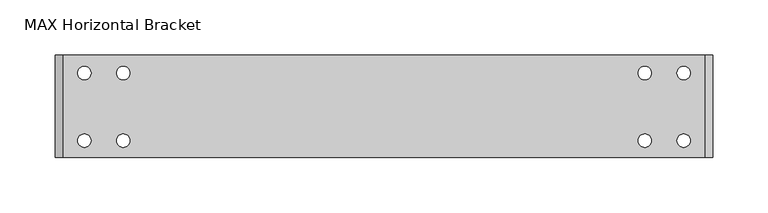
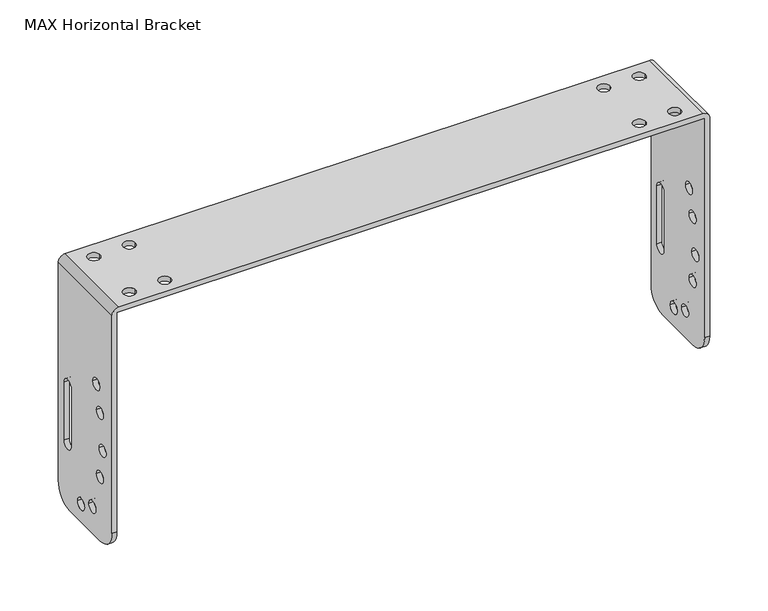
"""IFC4 building model written with IfcOpenShell, lengths in millimetres: proxy geometry, d&b M-Series MAX Horizontal Bracket : MAX Horizontal Bracket."""

from ifc_helpers import new_model, si_unit, frame, origin, place, context, project, spatial, polyline, circle_curve, source, transform, mapped, element, save
from ifc_brep_helpers import plane_surface, cylinder_surface, revolved_surface, advanced_brep


def max_horizontal_bracket_2c0e1940(model_context):
    return source(origin(), model_context, "Body", "AdvancedBrep", [
        advanced_brep(
        [(-365.1633527, 38.9610059, 231.2224562), (-365.1633527, 38.9610059, 1.2224562), (-370.1633527, 38.9610059, 1.2224562), (-370.1633527, 38.9610059, 229.2224562), (-363.1633527, 38.9610059, 236.2224562), (214.8366473, 38.9610059, 236.2224562), (221.8366473, 38.9610059, 229.2224562), (221.8366473, 38.9610059, 1.2224562), (216.8366473, 38.9610059, 1.2224562), (216.8366473, 38.9610059, 231.2224562), (-370.1633527, -53.0389941, 229.2224562), (-370.1633527, -53.0389941, 1.2224562), (-365.1633527, -53.0389941, 1.2224562), (-365.1633527, -53.0389941, 231.2224562), (216.8366473, -53.0389941, 231.2224562), (216.8366473, -53.0389941, 1.2224562), (221.8366473, -53.0389941, 1.2224562), (221.8366473, -53.0389941, 229.2224562), (214.8366473, -53.0389941, 236.2224562), (-363.1633527, -53.0389941, 236.2224562), (-370.1633527, 18.9610059, -18.7775438), (-365.1633527, 18.9610059, -18.7775438), (-365.1633527, -33.0389941, -18.7775438), (-370.1633527, -33.0389941, -18.7775438), (-365.1633527, -20.1881167, 141.6370424), (-365.1633527, -32.1881167, 141.6370424), (-365.1633527, -26.471766, 115.1668943), (-365.1633527, -38.471766, 115.1668943), (-365.1633527, -31.0389941, 78.1106339), (-365.1633527, -43.0389941, 78.1106339), (-365.1633527, -26.471766, 48.0141991), (-365.1633527, -38.471766, 48.0141991), (-365.1633527, -13.4654009, 9.0563936), (-365.1633527, -25.4654009, 9.0563936), (-365.1633527, 6.0, 0.0), (-365.1633527, -6.0, 0.0), (-365.1633527, 16.9610059, 49.4828004), (-365.1633527, 16.9610059, 110.5224562), (-365.1633527, 28.9610059, 110.5224562), (-365.1633527, 28.9610059, 49.4828004), (-338.1633527, -38.0389941, 231.2224562), (-350.1633527, -38.0389941, 231.2224562), (-338.1633527, 22.9610059, 231.2224562), (-350.1633527, 22.9610059, 231.2224562), (201.8366473, -38.0389941, 231.2224562), (189.8366473, -38.0389941, 231.2224562), (201.8366473, 22.9610059, 231.2224562), (189.8366473, 22.9610059, 231.2224562), (-303.1633527, -38.0389941, 231.2224562), (-315.1633527, -38.0389941, 231.2224562), (-303.1633527, 22.9610059, 231.2224562), (-315.1633527, 22.9610059, 231.2224562), (154.8366473, -38.0389941, 231.2224562), (166.8366473, -38.0389941, 231.2224562), (154.8366473, 22.9610059, 231.2224562), (166.8366473, 22.9610059, 231.2224562), (216.8366473, 18.9610059, -18.7775438), (216.8366473, -33.0389941, -18.7775438), (216.8366473, -32.1881167, 141.6370424), (216.8366473, -20.1881167, 141.6370424), (216.8366473, -38.471766, 115.1668943), (216.8366473, -26.471766, 115.1668943), (216.8366473, -43.0389941, 78.1106339), (216.8366473, -31.0389941, 78.1106339), (216.8366473, -38.471766, 48.0141991), (216.8366473, -26.471766, 48.0141991), (216.8366473, -25.4654009, 9.0563936), (216.8366473, -13.4654009, 9.0563936), (216.8366473, -6.0, 0.0), (216.8366473, 6.0, 0.0), (216.8366473, 28.9610059, 49.4828004), (216.8366473, 28.9610059, 110.5224562), (216.8366473, 16.9610059, 110.5224562), (216.8366473, 16.9610059, 49.4828004), (221.8366473, 18.9610059, -18.7775438), (221.8366473, -33.0389941, -18.7775438), (221.8366473, -20.1881167, 141.6370424), (221.8366473, -32.1881167, 141.6370424), (221.8366473, -26.471766, 115.1668943), (221.8366473, -38.471766, 115.1668943), (221.8366473, -31.0389941, 78.1106339), (221.8366473, -43.0389941, 78.1106339), (221.8366473, -26.471766, 48.0141991), (221.8366473, -38.471766, 48.0141991), (221.8366473, -13.4654009, 9.0563936), (221.8366473, -25.4654009, 9.0563936), (221.8366473, 6.0, 0.0), (221.8366473, -6.0, 0.0), (221.8366473, 16.9610059, 49.4828004), (221.8366473, 16.9610059, 110.5224562), (221.8366473, 28.9610059, 110.5224562), (221.8366473, 28.9610059, 49.4828004), (-350.1633527, -38.0389941, 236.2224562), (-338.1633527, -38.0389941, 236.2224562), (-350.1633527, 22.9610059, 236.2224562), (-338.1633527, 22.9610059, 236.2224562), (189.8366473, -38.0389941, 236.2224562), (201.8366473, -38.0389941, 236.2224562), (189.8366473, 22.9610059, 236.2224562), (201.8366473, 22.9610059, 236.2224562), (-315.1633527, -38.0389941, 236.2224562), (-303.1633527, -38.0389941, 236.2224562), (-315.1633527, 22.9610059, 236.2224562), (-303.1633527, 22.9610059, 236.2224562), (166.8366473, -38.0389941, 236.2224562), (154.8366473, -38.0389941, 236.2224562), (166.8366473, 22.9610059, 236.2224562), (154.8366473, 22.9610059, 236.2224562), (-370.1633527, -32.1881167, 141.6370424), (-370.1633527, -20.1881167, 141.6370424), (-370.1633527, -38.471766, 115.1668943), (-370.1633527, -26.471766, 115.1668943), (-370.1633527, -43.0389941, 78.1106339), (-370.1633527, -31.0389941, 78.1106339), (-370.1633527, -38.471766, 48.0141991), (-370.1633527, -26.471766, 48.0141991), (-370.1633527, -25.4654009, 9.0563936), (-370.1633527, -13.4654009, 9.0563936), (-370.1633527, -6.0, 0.0), (-370.1633527, 6.0, 0.0), (-370.1633527, 28.9610059, 49.4828004), (-370.1633527, 28.9610059, 110.5224562), (-370.1633527, 16.9610059, 110.5224562), (-370.1633527, 16.9610059, 49.4828004)],
        [
            (0, 1),
            (1, 2),
            (2, 3),
            (3, 4, circle_curve(frame((-363.1633527, 38.9610059, 229.2224562), z_axis=(0.0, 1.0, 0.0), x_axis=(1.0, 0.0, 0.0)), 7.0)),
            (4, 5),
            (5, 6, circle_curve(frame((214.8366473, 38.9610059, 229.2224562), z_axis=(0.0, 1.0, 0.0), x_axis=(1.0, 0.0, 0.0)), 7.0)),
            (6, 7),
            (7, 8),
            (8, 9),
            (9, 0),
            (10, 11),
            (11, 12),
            (12, 13),
            (13, 14),
            (14, 15),
            (15, 16),
            (16, 17),
            (17, 18, circle_curve(frame((214.8366473, -53.0389941, 229.2224562), z_axis=(0.0, -1.0, 0.0), x_axis=(1.0, 0.0, 0.0)), 7.0)),
            (18, 19),
            (19, 10, circle_curve(frame((-363.1633527, -53.0389941, 229.2224562), z_axis=(0.0, -1.0, 0.0), x_axis=(1.0, 0.0, 0.0)), 7.0)),
            (20, 21),
            (21, 22),
            (22, 23),
            (23, 20),
            (12, 22, circle_curve(frame((-365.1633527, -33.0389941, 1.2224562), z_axis=(1.0, 0.0, 0.0), x_axis=(0.0, 0.0, -1.0)), 20.0)),
            (21, 1, circle_curve(frame((-365.1633527, 18.9610059, 1.2224562), z_axis=(1.0, 0.0, 0.0), x_axis=(0.0, 0.0, -1.0)), 20.0)),
            (0, 13),
            (24, 25, circle_curve(frame((-365.1633527, -26.1881167, 141.6370424), z_axis=(-1.0, 0.0, 0.0), x_axis=(0.0, 1.0, 0.0)), 6.0)),
            (25, 24, circle_curve(frame((-365.1633527, -26.1881167, 141.6370424), z_axis=(-1.0, 0.0, 0.0), x_axis=(0.0, 1.0, 0.0)), 6.0)),
            (26, 27, circle_curve(frame((-365.1633527, -32.471766, 115.1668943), z_axis=(-1.0, 0.0, 0.0), x_axis=(0.0, 1.0, 0.0)), 6.0)),
            (27, 26, circle_curve(frame((-365.1633527, -32.471766, 115.1668943), z_axis=(-1.0, 0.0, 0.0), x_axis=(0.0, 1.0, 0.0)), 6.0)),
            (28, 29, circle_curve(frame((-365.1633527, -37.0389941, 78.1106339), z_axis=(-1.0, 0.0, 0.0), x_axis=(0.0, 1.0, 0.0)), 6.0)),
            (29, 28, circle_curve(frame((-365.1633527, -37.0389941, 78.1106339), z_axis=(-1.0, 0.0, 0.0), x_axis=(0.0, 1.0, 0.0)), 6.0)),
            (30, 31, circle_curve(frame((-365.1633527, -32.471766, 48.0141991), z_axis=(-1.0, 0.0, 0.0), x_axis=(0.0, 1.0, 0.0)), 6.0)),
            (31, 30, circle_curve(frame((-365.1633527, -32.471766, 48.0141991), z_axis=(-1.0, 0.0, 0.0), x_axis=(0.0, 1.0, 0.0)), 6.0)),
            (32, 33, circle_curve(frame((-365.1633527, -19.4654009, 9.0563936), z_axis=(-1.0, 0.0, 0.0), x_axis=(0.0, 1.0, 0.0)), 6.0)),
            (33, 32, circle_curve(frame((-365.1633527, -19.4654009, 9.0563936), z_axis=(-1.0, 0.0, 0.0), x_axis=(0.0, 1.0, 0.0)), 6.0)),
            (34, 35, circle_curve(frame((-365.1633527, 0.0, 0.0), z_axis=(-1.0, 0.0, 0.0), x_axis=(0.0, 1.0, 0.0)), 6.0)),
            (35, 34, circle_curve(frame((-365.1633527, 0.0, 0.0), z_axis=(-1.0, 0.0, 0.0), x_axis=(0.0, 1.0, 0.0)), 6.0)),
            (36, 37),
            (37, 38, circle_curve(frame((-365.1633527, 22.9610059, 110.5224562), z_axis=(-1.0, 0.0, 0.0), x_axis=(0.0, 1.0, 0.0)), 6.0)),
            (38, 39),
            (39, 36, circle_curve(frame((-365.1633527, 22.9610059, 49.4828004), z_axis=(-1.0, 0.0, 0.0), x_axis=(0.0, -1.0, 0.0)), 6.0)),
            (9, 14),
            (40, 41, circle_curve(frame((-344.1633527, -38.0389941, 231.2224562), z_axis=(0.0, 0.0, 1.0), x_axis=(-1.0, 0.0, 0.0)), 6.0)),
            (41, 40, circle_curve(frame((-344.1633527, -38.0389941, 231.2224562), z_axis=(0.0, 0.0, 1.0), x_axis=(-1.0, 0.0, 0.0)), 6.0)),
            (42, 43, circle_curve(frame((-344.1633527, 22.9610059, 231.2224562), z_axis=(0.0, 0.0, 1.0), x_axis=(-1.0, 0.0, 0.0)), 6.0)),
            (43, 42, circle_curve(frame((-344.1633527, 22.9610059, 231.2224562), z_axis=(0.0, 0.0, 1.0), x_axis=(-1.0, 0.0, 0.0)), 6.0)),
            (44, 45, circle_curve(frame((195.8366473, -38.0389941, 231.2224562), z_axis=(0.0, 0.0, 1.0), x_axis=(-1.0, 0.0, 0.0)), 6.0)),
            (45, 44, circle_curve(frame((195.8366473, -38.0389941, 231.2224562), z_axis=(0.0, 0.0, 1.0), x_axis=(-1.0, 0.0, 0.0)), 6.0)),
            (46, 47, circle_curve(frame((195.8366473, 22.9610059, 231.2224562), z_axis=(0.0, 0.0, 1.0), x_axis=(-1.0, 0.0, 0.0)), 6.0)),
            (47, 46, circle_curve(frame((195.8366473, 22.9610059, 231.2224562), z_axis=(0.0, 0.0, 1.0), x_axis=(-1.0, 0.0, 0.0)), 6.0)),
            (48, 49, circle_curve(frame((-309.1633527, -38.0389941, 231.2224562), z_axis=(0.0, 0.0, 1.0), x_axis=(-1.0, 0.0, 0.0)), 6.0)),
            (49, 48, circle_curve(frame((-309.1633527, -38.0389941, 231.2224562), z_axis=(0.0, 0.0, 1.0), x_axis=(-1.0, 0.0, 0.0)), 6.0)),
            (50, 51, circle_curve(frame((-309.1633527, 22.9610059, 231.2224562), z_axis=(0.0, 0.0, 1.0), x_axis=(-1.0, 0.0, 0.0)), 6.0)),
            (51, 50, circle_curve(frame((-309.1633527, 22.9610059, 231.2224562), z_axis=(0.0, 0.0, 1.0), x_axis=(-1.0, 0.0, 0.0)), 6.0)),
            (52, 53, circle_curve(frame((160.8366473, -38.0389941, 231.2224562), z_axis=(0.0, 0.0, 1.0), x_axis=(1.0, 0.0, 0.0)), 6.0)),
            (53, 52, circle_curve(frame((160.8366473, -38.0389941, 231.2224562), z_axis=(0.0, 0.0, 1.0), x_axis=(1.0, 0.0, 0.0)), 6.0)),
            (54, 55, circle_curve(frame((160.8366473, 22.9610059, 231.2224562), z_axis=(0.0, 0.0, 1.0), x_axis=(1.0, 0.0, 0.0)), 6.0)),
            (55, 54, circle_curve(frame((160.8366473, 22.9610059, 231.2224562), z_axis=(0.0, 0.0, 1.0), x_axis=(1.0, 0.0, 0.0)), 6.0)),
            (8, 56, circle_curve(frame((216.8366473, 18.9610059, 1.2224562), z_axis=(-1.0, 0.0, 0.0), x_axis=(0.0, 0.0, -1.0)), 20.0)),
            (56, 57),
            (57, 15, circle_curve(frame((216.8366473, -33.0389941, 1.2224562), z_axis=(-1.0, 0.0, 0.0), x_axis=(0.0, 0.0, -1.0)), 20.0)),
            (58, 59, circle_curve(frame((216.8366473, -26.1881167, 141.6370424), z_axis=(1.0, 0.0, 0.0), x_axis=(0.0, 1.0, 0.0)), 6.0)),
            (59, 58, circle_curve(frame((216.8366473, -26.1881167, 141.6370424), z_axis=(1.0, 0.0, 0.0), x_axis=(0.0, 1.0, 0.0)), 6.0)),
            (60, 61, circle_curve(frame((216.8366473, -32.471766, 115.1668943), z_axis=(1.0, 0.0, 0.0), x_axis=(0.0, 1.0, 0.0)), 6.0)),
            (61, 60, circle_curve(frame((216.8366473, -32.471766, 115.1668943), z_axis=(1.0, 0.0, 0.0), x_axis=(0.0, 1.0, 0.0)), 6.0)),
            (62, 63, circle_curve(frame((216.8366473, -37.0389941, 78.1106339), z_axis=(1.0, 0.0, 0.0), x_axis=(0.0, 1.0, 0.0)), 6.0)),
            (63, 62, circle_curve(frame((216.8366473, -37.0389941, 78.1106339), z_axis=(1.0, 0.0, 0.0), x_axis=(0.0, 1.0, 0.0)), 6.0)),
            (64, 65, circle_curve(frame((216.8366473, -32.471766, 48.0141991), z_axis=(1.0, 0.0, 0.0), x_axis=(0.0, 1.0, 0.0)), 6.0)),
            (65, 64, circle_curve(frame((216.8366473, -32.471766, 48.0141991), z_axis=(1.0, 0.0, 0.0), x_axis=(0.0, 1.0, 0.0)), 6.0)),
            (66, 67, circle_curve(frame((216.8366473, -19.4654009, 9.0563936), z_axis=(1.0, 0.0, 0.0), x_axis=(0.0, 1.0, 0.0)), 6.0)),
            (67, 66, circle_curve(frame((216.8366473, -19.4654009, 9.0563936), z_axis=(1.0, 0.0, 0.0), x_axis=(0.0, 1.0, 0.0)), 6.0)),
            (68, 69, circle_curve(frame((216.8366473, 0.0, 0.0), z_axis=(1.0, 0.0, 0.0), x_axis=(0.0, 1.0, 0.0)), 6.0)),
            (69, 68, circle_curve(frame((216.8366473, 0.0, 0.0), z_axis=(1.0, 0.0, 0.0), x_axis=(0.0, 1.0, 0.0)), 6.0)),
            (70, 71),
            (71, 72, circle_curve(frame((216.8366473, 22.9610059, 110.5224562), z_axis=(1.0, 0.0, 0.0), x_axis=(0.0, 1.0, 0.0)), 6.0)),
            (72, 73),
            (73, 70, circle_curve(frame((216.8366473, 22.9610059, 49.4828004), z_axis=(1.0, 0.0, 0.0), x_axis=(0.0, -1.0, 0.0)), 6.0)),
            (56, 74),
            (74, 75),
            (75, 57),
            (16, 75, circle_curve(frame((221.8366473, -33.0389941, 1.2224562), z_axis=(1.0, 0.0, 0.0), x_axis=(0.0, 0.0, -1.0)), 20.0)),
            (74, 7, circle_curve(frame((221.8366473, 18.9610059, 1.2224562), z_axis=(1.0, 0.0, 0.0), x_axis=(0.0, 0.0, -1.0)), 20.0)),
            (6, 17),
            (76, 77, circle_curve(frame((221.8366473, -26.1881167, 141.6370424), z_axis=(-1.0, 0.0, 0.0), x_axis=(0.0, 1.0, 0.0)), 6.0)),
            (77, 76, circle_curve(frame((221.8366473, -26.1881167, 141.6370424), z_axis=(-1.0, 0.0, 0.0), x_axis=(0.0, 1.0, 0.0)), 6.0)),
            (78, 79, circle_curve(frame((221.8366473, -32.471766, 115.1668943), z_axis=(-1.0, 0.0, 0.0), x_axis=(0.0, 1.0, 0.0)), 6.0)),
            (79, 78, circle_curve(frame((221.8366473, -32.471766, 115.1668943), z_axis=(-1.0, 0.0, 0.0), x_axis=(0.0, 1.0, 0.0)), 6.0)),
            (80, 81, circle_curve(frame((221.8366473, -37.0389941, 78.1106339), z_axis=(-1.0, 0.0, 0.0), x_axis=(0.0, 1.0, 0.0)), 6.0)),
            (81, 80, circle_curve(frame((221.8366473, -37.0389941, 78.1106339), z_axis=(-1.0, 0.0, 0.0), x_axis=(0.0, 1.0, 0.0)), 6.0)),
            (82, 83, circle_curve(frame((221.8366473, -32.471766, 48.0141991), z_axis=(-1.0, 0.0, 0.0), x_axis=(0.0, 1.0, 0.0)), 6.0)),
            (83, 82, circle_curve(frame((221.8366473, -32.471766, 48.0141991), z_axis=(-1.0, 0.0, 0.0), x_axis=(0.0, 1.0, 0.0)), 6.0)),
            (84, 85, circle_curve(frame((221.8366473, -19.4654009, 9.0563936), z_axis=(-1.0, 0.0, 0.0), x_axis=(0.0, 1.0, 0.0)), 6.0)),
            (85, 84, circle_curve(frame((221.8366473, -19.4654009, 9.0563936), z_axis=(-1.0, 0.0, 0.0), x_axis=(0.0, 1.0, 0.0)), 6.0)),
            (86, 87, circle_curve(frame((221.8366473, 0.0, 0.0), z_axis=(-1.0, 0.0, 0.0), x_axis=(0.0, 1.0, 0.0)), 6.0)),
            (87, 86, circle_curve(frame((221.8366473, 0.0, 0.0), z_axis=(-1.0, 0.0, 0.0), x_axis=(0.0, 1.0, 0.0)), 6.0)),
            (88, 89),
            (89, 90, circle_curve(frame((221.8366473, 22.9610059, 110.5224562), z_axis=(-1.0, 0.0, 0.0), x_axis=(0.0, 1.0, 0.0)), 6.0)),
            (90, 91),
            (91, 88, circle_curve(frame((221.8366473, 22.9610059, 49.4828004), z_axis=(-1.0, 0.0, 0.0), x_axis=(0.0, -1.0, 0.0)), 6.0)),
            (4, 19),
            (18, 5),
            (92, 93, circle_curve(frame((-344.1633527, -38.0389941, 236.2224562), z_axis=(0.0, 0.0, -1.0), x_axis=(-1.0, 0.0, 0.0)), 6.0)),
            (93, 92, circle_curve(frame((-344.1633527, -38.0389941, 236.2224562), z_axis=(0.0, 0.0, -1.0), x_axis=(-1.0, 0.0, 0.0)), 6.0)),
            (94, 95, circle_curve(frame((-344.1633527, 22.9610059, 236.2224562), z_axis=(0.0, 0.0, -1.0), x_axis=(-1.0, 0.0, 0.0)), 6.0)),
            (95, 94, circle_curve(frame((-344.1633527, 22.9610059, 236.2224562), z_axis=(0.0, 0.0, -1.0), x_axis=(-1.0, 0.0, 0.0)), 6.0)),
            (96, 97, circle_curve(frame((195.8366473, -38.0389941, 236.2224562), z_axis=(0.0, 0.0, -1.0), x_axis=(-1.0, 0.0, 0.0)), 6.0)),
            (97, 96, circle_curve(frame((195.8366473, -38.0389941, 236.2224562), z_axis=(0.0, 0.0, -1.0), x_axis=(-1.0, 0.0, 0.0)), 6.0)),
            (98, 99, circle_curve(frame((195.8366473, 22.9610059, 236.2224562), z_axis=(0.0, 0.0, -1.0), x_axis=(-1.0, 0.0, 0.0)), 6.0)),
            (99, 98, circle_curve(frame((195.8366473, 22.9610059, 236.2224562), z_axis=(0.0, 0.0, -1.0), x_axis=(-1.0, 0.0, 0.0)), 6.0)),
            (100, 101, circle_curve(frame((-309.1633527, -38.0389941, 236.2224562), z_axis=(0.0, 0.0, -1.0), x_axis=(-1.0, 0.0, 0.0)), 6.0)),
            (101, 100, circle_curve(frame((-309.1633527, -38.0389941, 236.2224562), z_axis=(0.0, 0.0, -1.0), x_axis=(-1.0, 0.0, 0.0)), 6.0)),
            (102, 103, circle_curve(frame((-309.1633527, 22.9610059, 236.2224562), z_axis=(0.0, 0.0, -1.0), x_axis=(-1.0, 0.0, 0.0)), 6.0)),
            (103, 102, circle_curve(frame((-309.1633527, 22.9610059, 236.2224562), z_axis=(0.0, 0.0, -1.0), x_axis=(-1.0, 0.0, 0.0)), 6.0)),
            (104, 105, circle_curve(frame((160.8366473, -38.0389941, 236.2224562), z_axis=(0.0, 0.0, -1.0), x_axis=(1.0, 0.0, 0.0)), 6.0)),
            (105, 104, circle_curve(frame((160.8366473, -38.0389941, 236.2224562), z_axis=(0.0, 0.0, -1.0), x_axis=(1.0, 0.0, 0.0)), 6.0)),
            (106, 107, circle_curve(frame((160.8366473, 22.9610059, 236.2224562), z_axis=(0.0, 0.0, -1.0), x_axis=(1.0, 0.0, 0.0)), 6.0)),
            (107, 106, circle_curve(frame((160.8366473, 22.9610059, 236.2224562), z_axis=(0.0, 0.0, -1.0), x_axis=(1.0, 0.0, 0.0)), 6.0)),
            (2, 20, circle_curve(frame((-370.1633527, 18.9610059, 1.2224562), z_axis=(-1.0, 0.0, 0.0), x_axis=(0.0, 0.0, -1.0)), 20.0)),
            (23, 11, circle_curve(frame((-370.1633527, -33.0389941, 1.2224562), z_axis=(-1.0, 0.0, 0.0), x_axis=(0.0, 0.0, -1.0)), 20.0)),
            (10, 3),
            (108, 109, circle_curve(frame((-370.1633527, -26.1881167, 141.6370424), z_axis=(1.0, 0.0, 0.0), x_axis=(0.0, 1.0, 0.0)), 6.0)),
            (109, 108, circle_curve(frame((-370.1633527, -26.1881167, 141.6370424), z_axis=(1.0, 0.0, 0.0), x_axis=(0.0, 1.0, 0.0)), 6.0)),
            (110, 111, circle_curve(frame((-370.1633527, -32.471766, 115.1668943), z_axis=(1.0, 0.0, 0.0), x_axis=(0.0, 1.0, 0.0)), 6.0)),
            (111, 110, circle_curve(frame((-370.1633527, -32.471766, 115.1668943), z_axis=(1.0, 0.0, 0.0), x_axis=(0.0, 1.0, 0.0)), 6.0)),
            (112, 113, circle_curve(frame((-370.1633527, -37.0389941, 78.1106339), z_axis=(1.0, 0.0, 0.0), x_axis=(0.0, 1.0, 0.0)), 6.0)),
            (113, 112, circle_curve(frame((-370.1633527, -37.0389941, 78.1106339), z_axis=(1.0, 0.0, 0.0), x_axis=(0.0, 1.0, 0.0)), 6.0)),
            (114, 115, circle_curve(frame((-370.1633527, -32.471766, 48.0141991), z_axis=(1.0, 0.0, 0.0), x_axis=(0.0, 1.0, 0.0)), 6.0)),
            (115, 114, circle_curve(frame((-370.1633527, -32.471766, 48.0141991), z_axis=(1.0, 0.0, 0.0), x_axis=(0.0, 1.0, 0.0)), 6.0)),
            (116, 117, circle_curve(frame((-370.1633527, -19.4654009, 9.0563936), z_axis=(1.0, 0.0, 0.0), x_axis=(0.0, 1.0, 0.0)), 6.0)),
            (117, 116, circle_curve(frame((-370.1633527, -19.4654009, 9.0563936), z_axis=(1.0, 0.0, 0.0), x_axis=(0.0, 1.0, 0.0)), 6.0)),
            (118, 119, circle_curve(frame((-370.1633527, 0.0, 0.0), z_axis=(1.0, 0.0, 0.0), x_axis=(0.0, 1.0, 0.0)), 6.0)),
            (119, 118, circle_curve(frame((-370.1633527, 0.0, 0.0), z_axis=(1.0, 0.0, 0.0), x_axis=(0.0, 1.0, 0.0)), 6.0)),
            (120, 121),
            (121, 122, circle_curve(frame((-370.1633527, 22.9610059, 110.5224562), z_axis=(1.0, 0.0, 0.0), x_axis=(0.0, 1.0, 0.0)), 6.0)),
            (122, 123),
            (123, 120, circle_curve(frame((-370.1633527, 22.9610059, 49.4828004), z_axis=(1.0, 0.0, 0.0), x_axis=(0.0, -1.0, 0.0)), 6.0)),
            (59, 76),
            (77, 58),
            (109, 24),
            (25, 108),
            (61, 78),
            (79, 60),
            (111, 26),
            (27, 110),
            (63, 80),
            (81, 62),
            (113, 28),
            (29, 112),
            (65, 82),
            (83, 64),
            (115, 30),
            (31, 114),
            (67, 84),
            (85, 66),
            (117, 32),
            (33, 116),
            (69, 86),
            (87, 68),
            (119, 34),
            (35, 118),
            (73, 88),
            (91, 70),
            (123, 36),
            (39, 120),
            (72, 89),
            (122, 37),
            (71, 90),
            (121, 38),
            (41, 92),
            (93, 40),
            (43, 94),
            (95, 42),
            (45, 96),
            (97, 44),
            (47, 98),
            (99, 46),
            (49, 100),
            (101, 48),
            (51, 102),
            (103, 50),
            (53, 104),
            (105, 52),
            (55, 106),
            (107, 54),
        ],
        [
            plane_surface(frame((-371.1633527, 38.9610059, -18.7775438), z_axis=(0.0, 1.0, 0.0), x_axis=(1.0, 0.0, 0.0))),
            plane_surface(frame((-371.1633527, -53.0389941, -18.7775438), z_axis=(0.0, -1.0, 0.0), x_axis=(-1.0, 0.0, 0.0))),
            plane_surface(frame((-370.1633527, 38.9610059, -18.7775438), z_axis=(0.0, 0.0, -1.0), x_axis=(0.0, -1.0, 0.0))),
            plane_surface(frame((-365.1633527, 38.9610059, -18.7775438), z_axis=(1.0, 0.0, 0.0), x_axis=(0.0, -1.0, 0.0))),
            plane_surface(frame((-365.1633527, 38.9610059, 231.2224562), z_axis=(0.0, 0.0, -1.0), x_axis=(0.0, -1.0, 0.0))),
            plane_surface(frame((216.8366473, 38.9610059, 231.2224562), z_axis=(-1.0, 0.0, 0.0), x_axis=(0.0, -1.0, 0.0))),
            plane_surface(frame((216.8366473, 38.9610059, -18.7775438), z_axis=(0.0, 0.0, -1.0), x_axis=(0.0, -1.0, 0.0))),
            plane_surface(frame((221.8366473, 38.9610059, -18.7775438), z_axis=(1.0, 0.0, 0.0), x_axis=(0.0, -1.0, 0.0))),
            plane_surface(frame((214.8366473, 38.9610059, 236.2224562), z_axis=(0.0, 0.0, 1.0), x_axis=(0.0, -1.0, 0.0))),
            plane_surface(frame((-370.1633527, 38.9610059, 229.2224562), z_axis=(-1.0, 0.0, 0.0), x_axis=(0.0, -1.0, 0.0))),
            cylinder_surface(frame((-474.1633527, 18.9610059, 1.2224562), z_axis=(-1.0, 0.0, 0.0), x_axis=(0.0, 0.0, -1.0)), 20.0),
            cylinder_surface(frame((-74.1633527, -33.0389941, 1.2224562), z_axis=(-1.0, 0.0, 0.0), x_axis=(0.0, 0.0, -1.0)), 20.0),
            revolved_surface(polyline([(221.83664729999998, -20.1881167, 141.6370424), (216.83664729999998, -20.1881167, 141.6370424)]), (-474.1633527, -26.1881167, 141.6370424), (1.0, 0.0, 0.0)),
            revolved_surface(polyline([(-365.1633527, -20.1881167, 141.6370424), (-370.1633527, -20.1881167, 141.6370424)]), (-474.1633527, -26.1881167, 141.6370424), (1.0, 0.0, 0.0)),
            revolved_surface(polyline([(221.83664729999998, -26.471766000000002, 115.1668943), (216.83664729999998, -26.471766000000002, 115.1668943)]), (-74.1633527, -32.471766, 115.1668943), (1.0, 0.0, 0.0)),
            revolved_surface(polyline([(-365.1633527, -26.471766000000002, 115.1668943), (-370.1633527, -26.471766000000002, 115.1668943)]), (-74.1633527, -32.471766, 115.1668943), (1.0, 0.0, 0.0)),
            revolved_surface(polyline([(221.83664729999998, -31.038994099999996, 78.1106339), (216.83664729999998, -31.038994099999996, 78.1106339)]), (-74.1633527, -37.0389941, 78.1106339), (1.0, 0.0, 0.0)),
            revolved_surface(polyline([(-365.1633527, -31.038994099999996, 78.1106339), (-370.1633527, -31.038994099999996, 78.1106339)]), (-74.1633527, -37.0389941, 78.1106339), (1.0, 0.0, 0.0)),
            revolved_surface(polyline([(221.83664729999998, -26.471766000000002, 48.0141991), (216.83664729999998, -26.471766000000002, 48.0141991)]), (-74.1633527, -32.471766, 48.0141991), (1.0, 0.0, 0.0)),
            revolved_surface(polyline([(-365.1633527, -26.471766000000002, 48.0141991), (-370.1633527, -26.471766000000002, 48.0141991)]), (-74.1633527, -32.471766, 48.0141991), (1.0, 0.0, 0.0)),
            revolved_surface(polyline([(221.83664729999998, -13.465400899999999, 9.0563936), (216.83664729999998, -13.465400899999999, 9.0563936)]), (-74.1633527, -19.4654009, 9.0563936), (1.0, 0.0, 0.0)),
            revolved_surface(polyline([(-365.1633527, -13.465400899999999, 9.0563936), (-370.1633527, -13.465400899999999, 9.0563936)]), (-74.1633527, -19.4654009, 9.0563936), (1.0, 0.0, 0.0)),
            revolved_surface(polyline([(221.83664729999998, 6.0, 0.0), (216.83664729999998, 6.0, 0.0)]), (-74.1633527, 0.0, 0.0), (1.0, 0.0, 0.0)),
            revolved_surface(polyline([(-365.1633527, 6.0, 0.0), (-370.1633527, 6.0, 0.0)]), (-74.1633527, 0.0, 0.0), (1.0, 0.0, 0.0)),
            revolved_surface(polyline([(221.83664729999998, 16.9610059, 49.4828004), (216.83664729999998, 16.9610059, 49.4828004)]), (-74.1633527, 22.9610059, 49.4828004), (1.0, 0.0, 0.0)),
            revolved_surface(polyline([(-365.1633527, 16.9610059, 49.4828004), (-370.1633527, 16.9610059, 49.4828004)]), (-74.1633527, 22.9610059, 49.4828004), (1.0, 0.0, 0.0)),
            plane_surface(frame((325.8366473, 16.9610059, 49.4828004), z_axis=(0.0, 1.0, 0.0), x_axis=(-1.0, 0.0, 0.0))),
            revolved_surface(polyline([(221.83664729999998, 28.9610059, 110.5224562), (216.83664729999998, 28.9610059, 110.5224562)]), (-74.1633527, 22.9610059, 110.5224562), (1.0, 0.0, 0.0)),
            revolved_surface(polyline([(-365.1633527, 28.9610059, 110.5224562), (-370.1633527, 28.9610059, 110.5224562)]), (-74.1633527, 22.9610059, 110.5224562), (1.0, 0.0, 0.0)),
            plane_surface(frame((325.8366473, 28.9610059, 110.5224562), z_axis=(0.0, -1.0, 0.0), x_axis=(-1.0, 0.0, 0.0))),
            revolved_surface(polyline([(-350.1633527, -38.0389941, 236.2224562), (-350.1633527, -38.0389941, 231.2224562)]), (-344.1633527, -38.0389941, 206.2224562), (0.0, 0.0, 1.0)),
            revolved_surface(polyline([(-350.1633527, 22.9610059, 236.2224562), (-350.1633527, 22.9610059, 231.2224562)]), (-344.1633527, 22.9610059, 221.2224562), (0.0, 0.0, 1.0)),
            revolved_surface(polyline([(189.8366473, -38.0389941, 236.2224562), (189.8366473, -38.0389941, 231.2224562)]), (195.8366473, -38.0389941, 221.2224562), (0.0, 0.0, 1.0)),
            revolved_surface(polyline([(189.8366473, 22.9610059, 236.2224562), (189.8366473, 22.9610059, 231.2224562)]), (195.8366473, 22.9610059, 221.2224562), (0.0, 0.0, 1.0)),
            cylinder_surface(frame((214.8366473, -53.0389941, 229.2224562), z_axis=(0.0, 1.0, 0.0), x_axis=(1.0, 0.0, 0.0)), 7.0),
            cylinder_surface(frame((-363.1633527, -53.0389941, 229.2224562), z_axis=(0.0, 1.0, 0.0), x_axis=(1.0, 0.0, 0.0)), 7.0),
            revolved_surface(polyline([(-315.1633527, -38.0389941, 236.2224562), (-315.1633527, -38.0389941, 231.2224562)]), (-309.1633527, -38.0389941, 221.2224562), (0.0, 0.0, 1.0)),
            revolved_surface(polyline([(-315.1633527, 22.9610059, 236.2224562), (-315.1633527, 22.9610059, 231.2224562)]), (-309.1633527, 22.9610059, 221.2224562), (0.0, 0.0, 1.0)),
            revolved_surface(polyline([(166.8366473, -38.0389941, 236.2224562), (166.8366473, -38.0389941, 231.2224562)]), (160.8366473, -38.0389941, 221.2224562), (0.0, 0.0, 1.0)),
            revolved_surface(polyline([(166.8366473, 22.9610059, 236.2224562), (166.8366473, 22.9610059, 231.2224562)]), (160.8366473, 22.9610059, 221.2224562), (0.0, 0.0, 1.0)),
        ],
        [
            (0, [[1, 2, 3, 4, 5, 6, 7, 8, 9, 10]]),
            (1, [[11, 12, 13, 14, 15, 16, 17, 18, 19, 20]]),
            (2, [[21, 22, 23, 24]]),
            (3, [[-13, 25, -22, 26, -1, 27], [28, 29], [30, 31], [32, 33], [34, 35], [36, 37], [38, 39], [40, 41, 42, 43]]),
            (4, [[44, -14, -27, -10], [45, 46], [47, 48], [49, 50], [51, 52], [53, 54], [55, 56], [57, 58], [59, 60]]),
            (5, [[-9, 61, 62, 63, -15, -44], [64, 65], [66, 67], [68, 69], [70, 71], [72, 73], [74, 75], [76, 77, 78, 79]]),
            (6, [[80, 81, 82, -62]]),
            (7, [[-17, 83, -81, 84, -7, 85], [86, 87], [88, 89], [90, 91], [92, 93], [94, 95], [96, 97], [98, 99, 100, 101]]),
            (8, [[102, -19, 103, -5], [104, 105], [106, 107], [108, 109], [110, 111], [112, 113], [114, 115], [116, 117], [118, 119]]),
            (9, [[-3, 120, -24, 121, -11, 122], [123, 124], [125, 126], [127, 128], [129, 130], [131, 132], [133, 134], [135, 136, 137, 138]]),
            (10, [[-26, -21, -120, -2]]),
            (10, [[-84, -80, -61, -8]]),
            (11, [[-63, -82, -83, -16]]),
            (11, [[-121, -23, -25, -12]]),
            (12, [[-65, 139, -87, 140]]),
            (13, [[-124, 141, -29, 142]]),
            (13, [[-28, -141, -123, -142]]),
            (12, [[-86, -139, -64, -140]]),
            (14, [[-67, 143, -89, 144]]),
            (15, [[-126, 145, -31, 146]]),
            (15, [[-30, -145, -125, -146]]),
            (14, [[-88, -143, -66, -144]]),
            (16, [[-69, 147, -91, 148]]),
            (17, [[-128, 149, -33, 150]]),
            (17, [[-32, -149, -127, -150]]),
            (16, [[-90, -147, -68, -148]]),
            (18, [[-71, 151, -93, 152]]),
            (19, [[-130, 153, -35, 154]]),
            (19, [[-34, -153, -129, -154]]),
            (18, [[-92, -151, -70, -152]]),
            (20, [[-73, 155, -95, 156]]),
            (21, [[-132, 157, -37, 158]]),
            (21, [[-36, -157, -131, -158]]),
            (20, [[-94, -155, -72, -156]]),
            (22, [[-75, 159, -97, 160]]),
            (23, [[-134, 161, -39, 162]]),
            (23, [[-38, -161, -133, -162]]),
            (22, [[-96, -159, -74, -160]]),
            (24, [[-79, 163, -101, 164]]),
            (25, [[-138, 165, -43, 166]]),
            (26, [[-78, 167, -98, -163]]),
            (26, [[-137, 168, -40, -165]]),
            (27, [[-77, 169, -99, -167]]),
            (28, [[-136, 170, -41, -168]]),
            (29, [[-42, -170, -135, -166]]),
            (29, [[-100, -169, -76, -164]]),
            (30, [[-46, 171, -105, 172]]),
            (30, [[-104, -171, -45, -172]]),
            (31, [[-48, 173, -107, 174]]),
            (31, [[-106, -173, -47, -174]]),
            (32, [[-50, 175, -109, 176]]),
            (32, [[-108, -175, -49, -176]]),
            (33, [[-52, 177, -111, 178]]),
            (33, [[-110, -177, -51, -178]]),
            (34, [[-103, -18, -85, -6]]),
            (35, [[-122, -20, -102, -4]]),
            (36, [[-54, 179, -113, 180]]),
            (36, [[-112, -179, -53, -180]]),
            (37, [[-56, 181, -115, 182]]),
            (37, [[-114, -181, -55, -182]]),
            (38, [[-58, 183, -117, 184]]),
            (38, [[-116, -183, -57, -184]]),
            (39, [[-60, 185, -119, 186]]),
            (39, [[-118, -185, -59, -186]]),
        ],
    ),
    ])


if __name__ == "__main__":
    model = new_model("IFC4")
    model_context = context("Model", 3, world=origin())
    ifc_project = project(units=[si_unit("LENGTHUNIT", "METRE", prefix="MILLI")], contexts=[model_context])
    site = spatial("IfcSite", under=ifc_project)
    building = spatial("IfcBuilding", under=site)
    placement = place(None, origin())
    max_horizontal_bracket_shape = max_horizontal_bracket_2c0e1940(model_context)
    element("IfcBuildingElementProxy", 1, Name="d&b M-Series MAX Horizontal Bracket : MAX Horizontal Bracket", ObjectType="d&b M-Series MAX Horizontal Bracket : MAX Horizontal Bracket", at=placement, inside=building, context=model_context, shape_type="MappedRepresentation", body=[
        mapped(max_horizontal_bracket_shape, transform((0.0, 0.0, 0.0), x_axis=(1.0, 0.0, 0.0), y_axis=(0.0, 1.0, 0.0), z_axis=(0.0, 0.0, 1.0))),
    ])
    save(model, "model.ifc")
